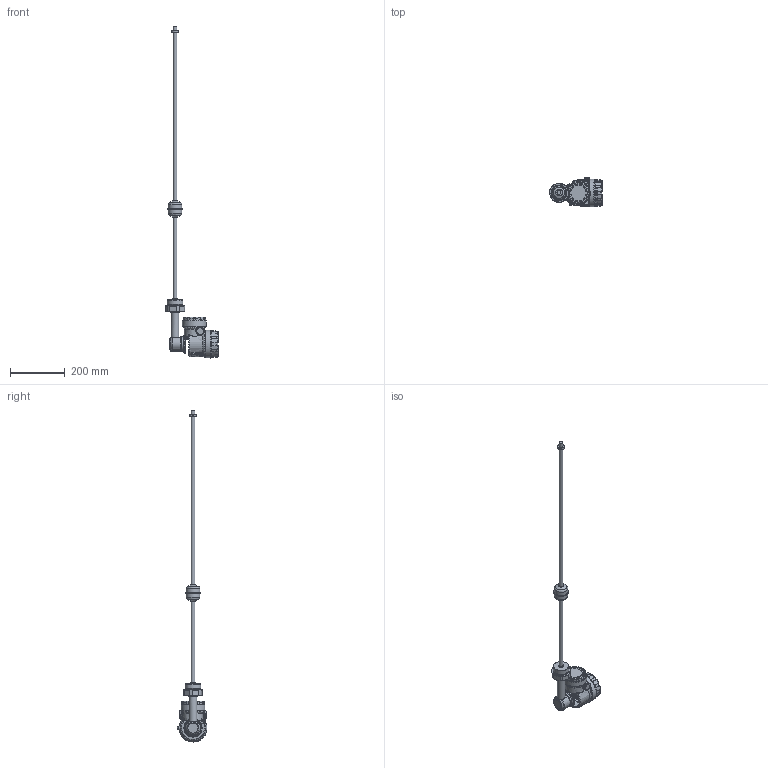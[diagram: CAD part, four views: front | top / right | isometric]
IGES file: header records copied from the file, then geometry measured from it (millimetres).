
Global section: file name: M_RN_Bszer_2col; native system: Autodesk Inventor 2015; preprocessor: unknown; author: aantal; date: 20150529.141645; units: millimetre
Bounding box: 194.16 x 109.65 x 1216.45 mm (x, y, z)
Volume: 1526888.7 mm3; surface area: 239272.4 mm2
Topology: 16 solids, 23 shells, 1684 faces, 4057 edges, 2383 vertices
Faces by surface type: bspline 1684
